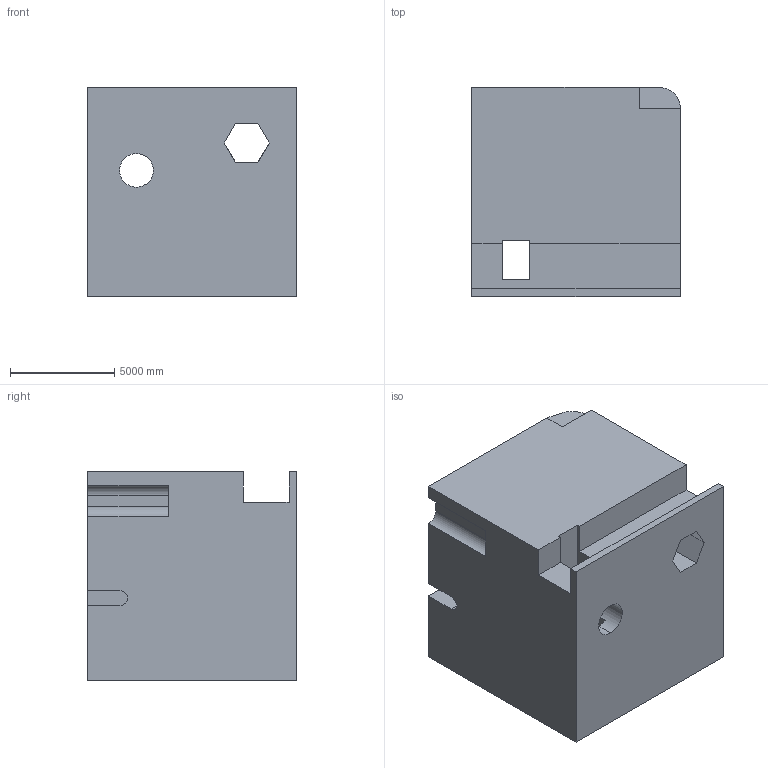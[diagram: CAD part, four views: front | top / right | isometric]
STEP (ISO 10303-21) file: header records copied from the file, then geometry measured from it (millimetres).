
FILE_DESCRIPTION (( 'STEP AP203' ), '1' );
FILE_NAME ('199.STEP', '2022-09-05T16:11:00', ( 'user' ), ( '' ), 'SwSTEP 2.0', 'SolidWorks 2021', '' );
FILE_SCHEMA (( 'CONFIG_CONTROL_DESIGN' ));
Length unit declared in the file: centimetre
Products named in the file (1): 199
Bounding box: 10000 x 10000 x 10000 mm (x, y, z)
Volume: 880910229265.1 mm3; surface area: 807606331.8 mm2
Topology: 1 solids, 1 shells, 47 faces, 144 edges, 96 vertices
Faces by surface type: plane 38, cylinder 9
Entity records: 1696 total; most frequent: CARTESIAN_POINT 303, ORIENTED_EDGE 288, DIRECTION 256, EDGE_CURVE 144, LINE 118, VECTOR 118, VERTEX_POINT 96, AXIS2_PLACEMENT_3D 69
